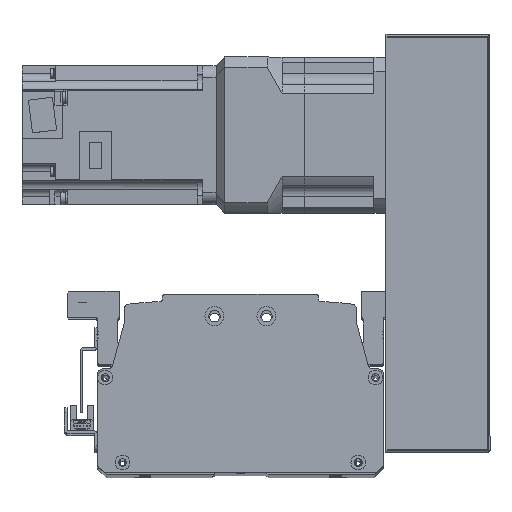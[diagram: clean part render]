
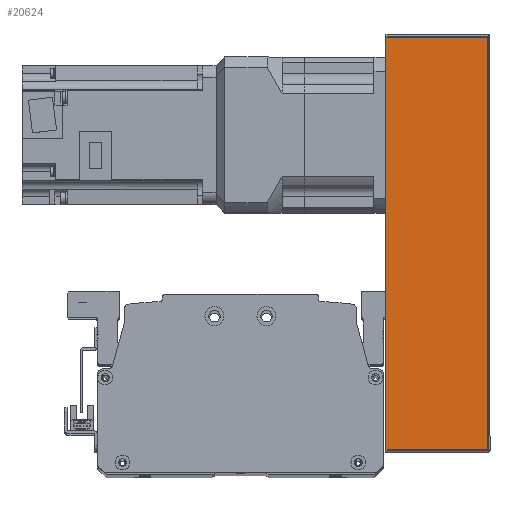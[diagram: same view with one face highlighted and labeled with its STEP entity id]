
A CAD part, top view. The second image highlights one B-rep face of the part: STEP entity #20624.
In plain terms, the highlighted planar face has unit normal (0, 0, 1) as drawn and (0, -1, 0) by its records, which use the part's own axes.
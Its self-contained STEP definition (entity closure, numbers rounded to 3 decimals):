
#556=PLANE('',#22468);
#1674=LINE('',#32737,#3334);
#1700=LINE('',#32833,#3360);
#1701=LINE('',#32841,#3361);
#1708=LINE('',#32866,#3368);
#3334=VECTOR('',#26615,10.);
#3360=VECTOR('',#26733,10.);
#3361=VECTOR('',#26744,10.);
#3368=VECTOR('',#26779,10.);
#5345=FACE_OUTER_BOUND('',#6765,.T.);
#6765=EDGE_LOOP('',(#16206,#16207,#16208,#16209));
#9607=VERTEX_POINT('',#32734);
#9608=VERTEX_POINT('',#32736);
#9632=VERTEX_POINT('',#32829);
#9633=VERTEX_POINT('',#32835);
#11954=EDGE_CURVE('',#9608,#9607,#1674,.T.);
#12004=EDGE_CURVE('',#9607,#9632,#1700,.T.);
#12008=EDGE_CURVE('',#9633,#9608,#1701,.T.);
#12021=EDGE_CURVE('',#9632,#9633,#1708,.T.);
#16206=ORIENTED_EDGE('',*,*,#12004,.T.);
#16207=ORIENTED_EDGE('',*,*,#12021,.T.);
#16208=ORIENTED_EDGE('',*,*,#12008,.T.);
#16209=ORIENTED_EDGE('',*,*,#11954,.T.);
#20624=ADVANCED_FACE('',(#5345),#556,.F.);
#22468=AXIS2_PLACEMENT_3D('',#32872,#26789,#26790);
#26615=DIRECTION('',(1.,0.,0.));
#26733=DIRECTION('',(0.,0.,1.));
#26744=DIRECTION('',(0.,0.,-1.));
#26779=DIRECTION('',(-1.,0.,0.));
#26789=DIRECTION('center_axis',(0.,1.,0.));
#26790=DIRECTION('ref_axis',(1.,0.,0.));
#32734=CARTESIAN_POINT('',(119.5,-51.,-30.));
#32736=CARTESIAN_POINT('',(-119.5,-51.,-30.));
#32737=CARTESIAN_POINT('',(120.5,-51.,-30.));
#32829=CARTESIAN_POINT('',(119.5,-51.,29.));
#32833=CARTESIAN_POINT('',(119.5,-51.,0.));
#32835=CARTESIAN_POINT('',(-119.5,-51.,29.));
#32841=CARTESIAN_POINT('',(-119.5,-51.,0.));
#32866=CARTESIAN_POINT('',(-60.25,-51.,29.));
#32872=CARTESIAN_POINT('Origin',(-120.5,-51.,0.));
